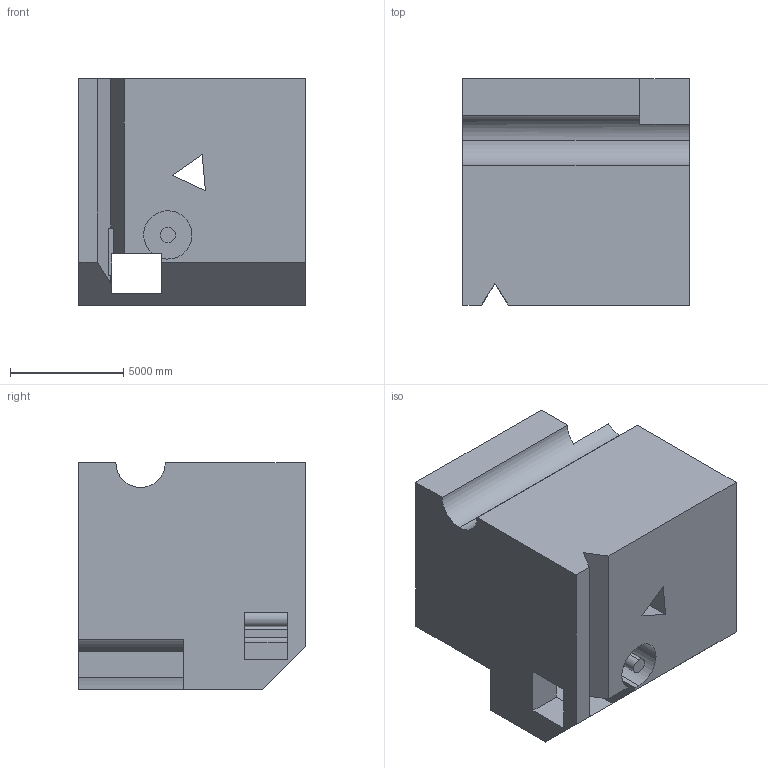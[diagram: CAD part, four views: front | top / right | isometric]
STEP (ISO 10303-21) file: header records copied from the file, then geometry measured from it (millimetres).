
FILE_DESCRIPTION (( 'STEP AP203' ), '1' );
FILE_NAME ('1883.STEP', '2022-08-19T13:57:15', ( 'user' ), ( '' ), 'SwSTEP 2.0', 'SolidWorks 2021', '' );
FILE_SCHEMA (( 'CONFIG_CONTROL_DESIGN' ));
Length unit declared in the file: centimetre
Products named in the file (1): 1883
Bounding box: 10000 x 10000 x 10000 mm (x, y, z)
Volume: 849748421847.6 mm3; surface area: 728327515.5 mm2
Topology: 1 solids, 1 shells, 40 faces, 123 edges, 82 vertices
Faces by surface type: plane 31, cylinder 9
Entity records: 1461 total; most frequent: CARTESIAN_POINT 246, ORIENTED_EDGE 246, DIRECTION 226, EDGE_CURVE 123, LINE 102, VECTOR 102, VERTEX_POINT 82, AXIS2_PLACEMENT_3D 62
